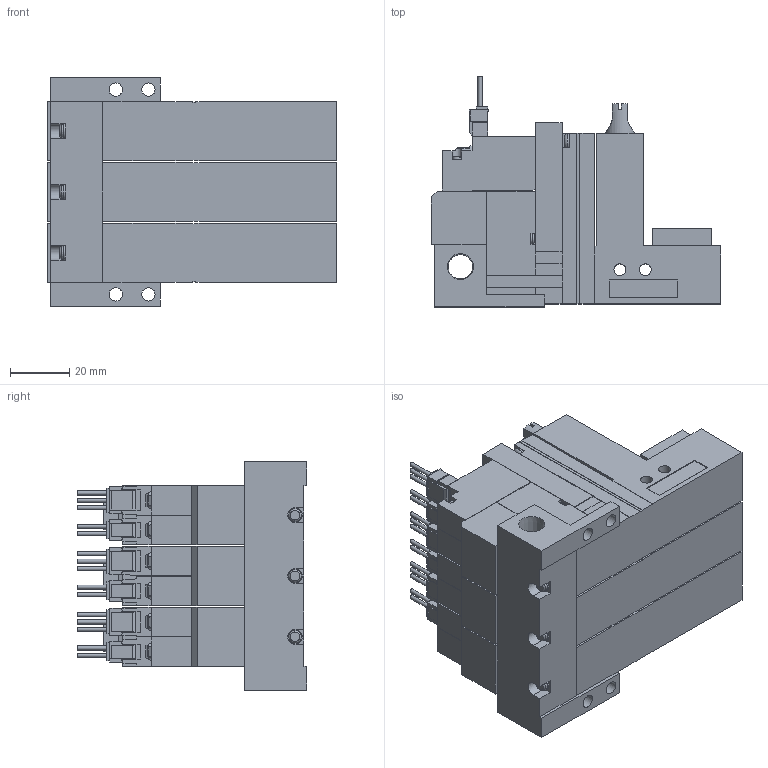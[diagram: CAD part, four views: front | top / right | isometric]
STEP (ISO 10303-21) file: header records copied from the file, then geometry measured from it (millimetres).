
FILE_DESCRIPTION(('STEP AP203'),'1');
FILE_NAME('ZLC5WLR303.stp','2025-02-18T07:24:03',(' '),(' '),'Spatial InterOp 3D',' ',' ');
FILE_SCHEMA(('CONFIG_CONTROL_DESIGN'));
Length unit declared in the file: millimetre
Products named in the file (5): BMC22M※※※※ZLC5WLR303; Solenoid valve W; Pressure sensor ZLC; Unit LC; Base MR30R
Assembly tree (10 placements, depth 2):
  BMC22M※※※※ZLC5WLR303
    Solenoid valve W  x3
    Pressure sensor ZLC  x3
    Unit LC  x3
    Base MR30R
Bounding box: 97.6 x 77.45 x 77 mm (x, y, z)
Volume: 273070.2 mm3; surface area: 73555.8 mm2
Topology: 10 solids, 10 shells, 1110 faces, 3014 edges, 1981 vertices
Faces by surface type: plane 956, cylinder 116, cone 23, torus 15
Full cylindrical faces by diameter (mm): 1.4 x15, 2.5 x3, 3 x12, 3.5 x12, 3.6 x3, 4 x6, 4.134 x3, 4.5 x4, 5.2 x3, 6 x3, 6.6 x3, 8.279 x1
Entity records: 13002 total; most frequent: CARTESIAN_POINT 2466, ORIENTED_EDGE 2078, DIRECTION 2045, EDGE_CURVE 1039, LINE 873, VECTOR 873, VERTEX_POINT 716, AXIS2_PLACEMENT_3D 586
